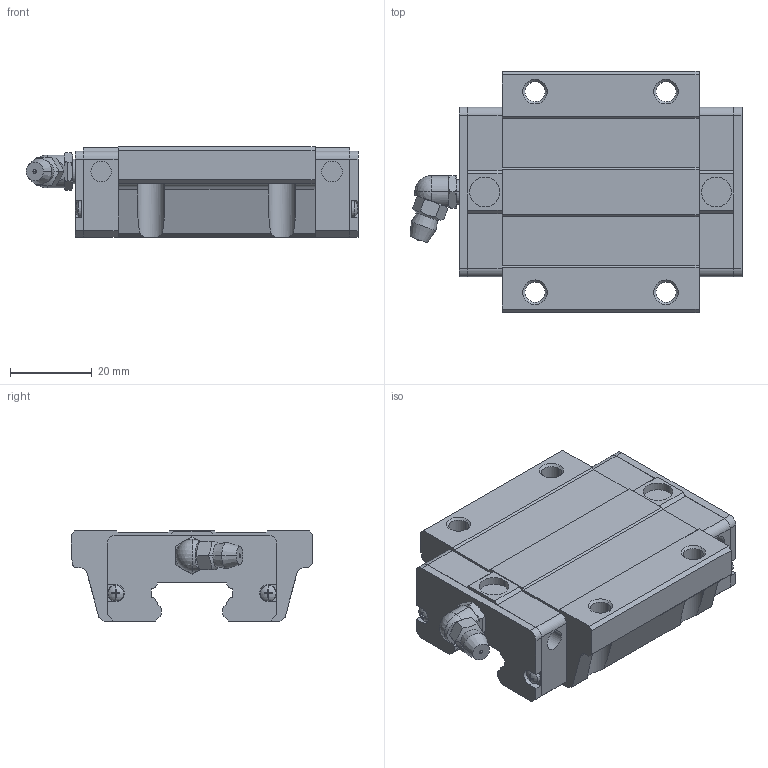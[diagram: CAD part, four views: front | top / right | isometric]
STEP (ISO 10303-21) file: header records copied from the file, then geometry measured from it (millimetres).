
FILE_DESCRIPTION(('starvars output'),'2;1');
FILE_NAME('cv20190610050239000016681.stp','05:02:39 2019/06/10',( 'Thomas Industrial Network Germany GmbH'),( 'Thomas Industrial Network Germany GmbH'),'unknown preprocess','ACIS' ,'unknown authorization');
FILE_SCHEMA(('CONFIG_CONTROL_DESIGN {UNKNOWN IMPLEMENTATION LEVEL}'));
Length unit declared in the file: millimetre
Products named in the file (10): PRODUCT_ID_1; PRODUCT_ID_2; PRODUCT_ID_3; PRODUCT_ID_4; PRODUCT_ID_5; PRODUCT_ID_6; PRODUCT_ID_7; PRODUCT_ID_8; PRODUCT_ID_9; PRODUCT_ID_10
Bounding box: 81.1 x 59 x 22 mm (x, y, z)
Volume: 60671.3 mm3; surface area: 21039.9 mm2
Topology: 10 solids, 10 shells, 435 faces, 1166 edges, 756 vertices
Faces by surface type: plane 235, cylinder 132, cone 56, sphere 12
Entity records: 13266 total; most frequent: ORIENTED_EDGE 2324, CARTESIAN_POINT 2186, DIRECTION 1957, EDGE_CURVE 1162, VERTEX_POINT 756, AXIS2_PLACEMENT_3D 653, VECTOR 651, LINE 651
